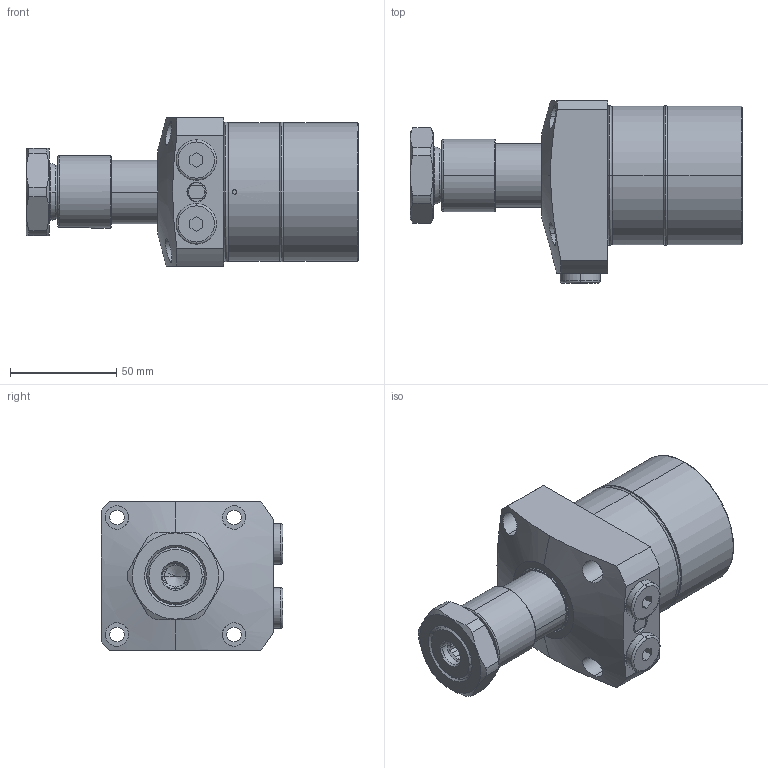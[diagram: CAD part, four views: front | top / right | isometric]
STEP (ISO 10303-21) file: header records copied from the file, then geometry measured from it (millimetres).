
FILE_DESCRIPTION(/* description */ (''),/* implementation_level */ '2;1');
FILE_NAME(/* name */ 'KTRW65-LJ.stp',/* time_stamp */ '2022-11-18T13:33:41+08:00',/* author */ (''),/* organization */ (''),/* preprocessor_version */ 'ST-DEVELOPER v16.7',/* originating_system */ 'SIEMENS PLM Software NX 12.0',/* authorisation */ '');
FILE_SCHEMA (('AP203_CONFIGURATION_CONTROLLED_3D_DESIGN_OF_MECHANICAL_PARTS_AND_ASSEMBLIES_MIM_LF { 1 0 10303 403 2 1 2}'));
Length unit declared in the file: millimetre
Products named in the file (7): KTRW65-LJ-05; KTRW65-LJ-06; KTRW65-LJ-01; KTRW65-LJ-02; KTRW65-LJ-03; KTRW65-LJ-04; LHW0651-CLJ_step
Assembly tree (9 placements, depth 2):
  LHW0651-CLJ_step
    KTRW65-LJ-04  x3
    KTRW65-LJ-03
    KTRW65-LJ-02
    KTRW65-LJ-01
    KTRW65-LJ-06  x2
    KTRW65-LJ-05
Bounding box: 156 x 85.5 x 70 mm (x, y, z)
Volume: 400580.6 mm3; surface area: 61159.9 mm2
Topology: 11 solids, 11 shells, 355 faces, 795 edges, 487 vertices
Faces by surface type: cylinder 103, plane 103, torus 82, cone 65, sphere 2
Entity records: 9415 total; most frequent: CARTESIAN_POINT 1973, DIRECTION 1488, ORIENTED_EDGE 1290, EDGE_CURVE 645, AXIS2_PLACEMENT_3D 630, VERTEX_POINT 399, CIRCLE 336, EDGE_LOOP 322
